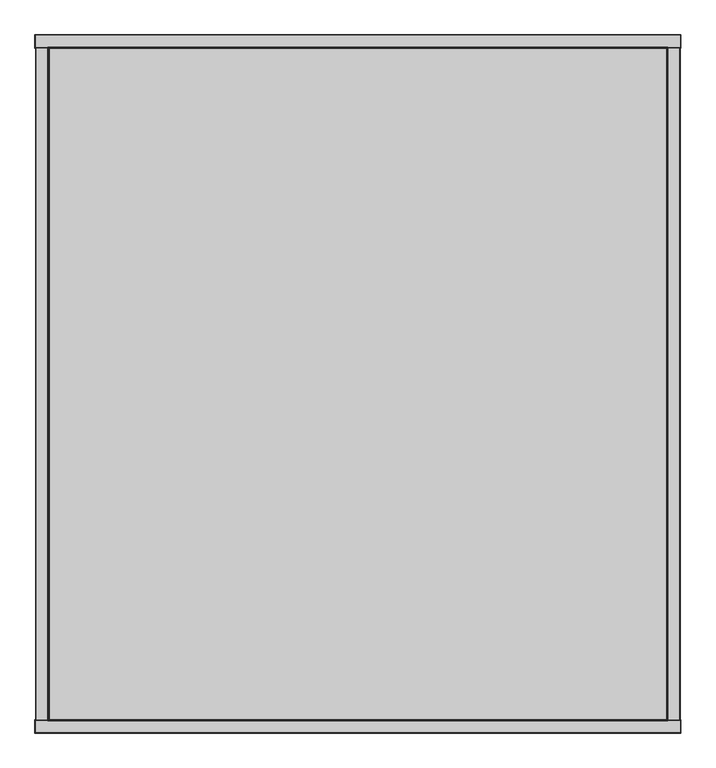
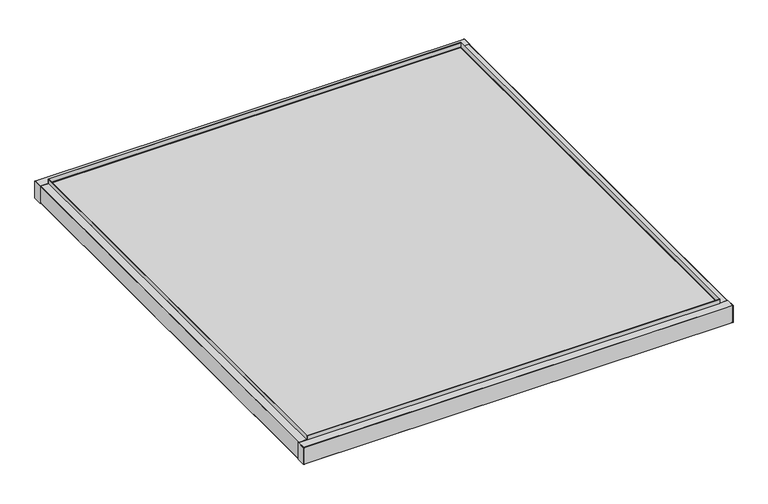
"""IFC4 building model written with IfcOpenShell, lengths in millimetres: proxy geometry, Specialy Equipment_Blindspace_Standard-Pockets-for-Roller-Blinds : 2400 mm x 2600 mm with 100 x 100 mm Box."""

from ifc_helpers import new_model, si_unit, point, frame, frame_2d, origin, place, context, project, spatial, polyline, circle_curve, trimmed, segment, composite_curve, outline, extrude, source, transform, mapped, element, save


def specialty_equipment_c5b3c8d2(model_context):
    return source(origin(), model_context, "Body", "SweptSolid", [
        extrude(outline(polyline([(1154.2337728, -1250.0), (1152.7519052, -1250.0), (1152.7519052, 1250.0), (1154.2337728, 1250.0), (1154.2337728, -1250.0)])), frame((0.0, 0.0, -150.0211688), z_axis=(0.0, 0.0, 1.0), x_axis=(1.0, 0.0, 0.0)), (0.0, 0.0, 1.0), 25.0211686),
        extrude(outline(polyline([(-1152.7519052, -1250.0), (-1154.2337728, -1250.0), (-1154.2337728, 1250.0), (-1152.7519052, 1250.0), (-1152.7519052, -1250.0)])), frame((0.0, 0.0, -25.0), z_axis=(0.0, 0.0, 1.0), x_axis=(1.0, 0.0, 0.0)), (0.0, 0.0, 1.0), 25.0211686),
        extrude(outline(polyline([(-1152.7519052, -1250.0), (-1154.2337728, -1250.0), (-1154.2337728, 1250.0), (-1152.7519052, 1250.0), (-1152.7519052, -1250.0)])), frame((0.0, 0.0, -150.0211688), z_axis=(0.0, 0.0, 1.0), x_axis=(1.0, 0.0, 0.0)), (0.0, 0.0, 1.0), 25.0211686),
        extrude(outline(polyline([(1154.2337728, -1250.0), (1152.7519052, -1250.0), (1152.7519052, 1250.0), (1154.2337728, 1250.0), (1154.2337728, -1250.0)])), frame((0.0, 0.0, -25.0), z_axis=(0.0, 0.0, 1.0), x_axis=(1.0, 0.0, 0.0)), (0.0, 0.0, 1.0), 25.0211686),
        extrude(outline(composite_curve([segment(polyline([(-125.0, 1152.4570582), (-125.0, 1199.25)]), True, "CONTINUOUS"), segment(trimmed(circle_curve(frame_2d((-124.25, 1199.25)), 0.75), [point((-125.0, 1199.25))], [point((-124.25, 1200.0))], False, "CARTESIAN"), True, "CONTINUOUS"), segment(polyline([(-124.25, 1200.0), (-25.75, 1200.0)]), True, "CONTINUOUS"), segment(trimmed(circle_curve(frame_2d((-25.75, 1199.25)), 0.75), [point((-25.75, 1200.0))], [point((-25.0, 1199.25))], False, "CARTESIAN"), True, "CONTINUOUS"), segment(polyline([(-25.0, 1199.25), (-25.0, 1152.4570582), (-27.5, 1150.0), (-27.5, 1172.9912851), (-32.7357774, 1172.9912851), (-32.7357774, 1180.0039757), (-27.5, 1180.0039757), (-27.5, 1188.0030209), (-32.7357774, 1188.0030209), (-32.7357774, 1194.991), (-27.5, 1194.991), (-27.5, 1197.5), (-122.5, 1197.5), (-122.5, 1194.991), (-117.2642226, 1194.991), (-117.2642226, 1188.0030209), (-122.5, 1188.0030209), (-122.5, 1180.0039757), (-117.2642226, 1180.0039757), (-117.2642226, 1172.9912851), (-122.5, 1172.9912851), (-122.5, 1152.4875145), (-59.0, 1152.4875145), (-59.0, 1157.4875145), (-56.5, 1157.4875145), (-56.5, 1150.0), (-122.5, 1150.0), (-125.0, 1152.4570582)]), True, "CONTINUOUS")], self_intersect=False)), frame((0.0, -1250.0, 0.0), z_axis=(0.0, 1.0, 0.0), x_axis=(0.0, 0.0, 1.0)), (0.0, 0.0, 1.0), 2500.0),
        extrude(outline(polyline([(-1154.2, -1254.2337728), (-1154.2, -1252.7519052), (1154.2, -1252.7519052), (1154.2, -1254.2337728), (-1154.2, -1254.2337728)])), frame((0.0, 0.0, -25.0), z_axis=(0.0, 0.0, 1.0), x_axis=(1.0, 0.0, 0.0)), (0.0, 0.0, 1.0), 25.0211686),
        extrude(outline(polyline([(-1154.2, -1254.2337728), (-1154.2, -1252.7519052), (1154.2, -1252.7519052), (1154.2, -1254.2337728), (-1154.2, -1254.2337728)])), frame((0.0, 0.0, -150.0211687), z_axis=(0.0, 0.0, 1.0), x_axis=(1.0, 0.0, 0.0)), (0.0, 0.0, 1.0), 25.0211686),
        extrude(outline(composite_curve([segment(polyline([(-1252.4570582, -125.0), (-1299.25, -125.0)]), True, "CONTINUOUS"), segment(trimmed(circle_curve(frame_2d((-1299.25, -124.25)), 0.75), [point((-1299.25, -125.0))], [point((-1300.0, -124.25))], False, "CARTESIAN"), True, "CONTINUOUS"), segment(polyline([(-1300.0, -124.25), (-1300.0, -25.75)]), True, "CONTINUOUS"), segment(trimmed(circle_curve(frame_2d((-1299.25, -25.75)), 0.75), [point((-1300.0, -25.75))], [point((-1299.25, -25.0))], False, "CARTESIAN"), True, "CONTINUOUS"), segment(polyline([(-1299.25, -25.0), (-1252.4570582, -25.0), (-1250.0, -27.5), (-1272.9912851, -27.5), (-1272.9912851, -32.7357774), (-1280.0039757, -32.7357774), (-1280.0039757, -27.5), (-1288.0030209, -27.5), (-1288.0030209, -32.7357774), (-1294.991, -32.7357774), (-1294.991, -27.5), (-1297.5, -27.5), (-1297.5, -122.5), (-1294.991, -122.5), (-1294.991, -117.2642226), (-1288.0030209, -117.2642226), (-1288.0030209, -122.5), (-1280.0039757, -122.5), (-1280.0039757, -117.2642226), (-1272.9912851, -117.2642226), (-1272.9912851, -122.5), (-1252.4875145, -122.5), (-1252.4875145, -59.0), (-1257.4875145, -59.0), (-1257.4875145, -56.5), (-1250.0, -56.5), (-1250.0, -122.5), (-1252.4570582, -125.0)]), True, "CONTINUOUS")], self_intersect=False)), frame((-1200.0, 0.0, 0.0), z_axis=(1.0, 0.0, 0.0), x_axis=(0.0, 1.0, 0.0)), (0.0, 0.0, 1.0), 2400.0),
        extrude(outline(composite_curve([segment(polyline([(-125.0, -1152.4570582), (-122.5, -1150.0), (-56.5, -1150.0), (-56.5, -1157.4875145), (-59.0, -1157.4875145), (-59.0, -1152.4875145), (-122.5, -1152.4875145), (-122.5, -1172.9912851), (-117.2642226, -1172.9912851), (-117.2642226, -1180.0039757), (-122.5, -1180.0039757), (-122.5, -1188.0030209), (-117.2642226, -1188.0030209), (-117.2642226, -1194.991), (-122.5, -1194.991), (-122.5, -1197.5), (-27.5, -1197.5), (-27.5, -1194.991), (-32.7357774, -1194.991), (-32.7357774, -1188.0030209), (-27.5, -1188.0030209), (-27.5, -1180.0039757), (-32.7357774, -1180.0039757), (-32.7357774, -1172.9912851), (-27.5, -1172.9912851), (-27.5, -1150.0), (-25.0, -1152.4570582), (-25.0, -1199.25)]), True, "CONTINUOUS"), segment(trimmed(circle_curve(frame_2d((-25.75, -1199.25)), 0.75), [point((-25.0, -1199.25))], [point((-25.75, -1200.0))], False, "CARTESIAN"), True, "CONTINUOUS"), segment(polyline([(-25.75, -1200.0), (-124.25, -1200.0)]), True, "CONTINUOUS"), segment(trimmed(circle_curve(frame_2d((-124.25, -1199.25)), 0.75), [point((-124.25, -1200.0))], [point((-125.0, -1199.25))], False, "CARTESIAN"), True, "CONTINUOUS"), segment(polyline([(-125.0, -1199.25), (-125.0, -1152.4570582)]), True, "CONTINUOUS")], self_intersect=False)), frame((0.0, -1250.0, 0.0), z_axis=(0.0, 1.0, 0.0), x_axis=(0.0, 0.0, 1.0)), (0.0, 0.0, 1.0), 2500.0),
        extrude(outline(polyline([(-1154.2337728, 1252.7519052), (-1154.2337728, 1254.2337728), (1154.2337728, 1254.2337728), (1154.2337728, 1252.7519052), (-1154.2337728, 1252.7519052)])), frame((0.0, 0.0, -25.0), z_axis=(0.0, 0.0, 1.0), x_axis=(1.0, 0.0, 0.0)), (0.0, 0.0, 1.0), 25.0211686),
        extrude(outline(polyline([(-1154.2337728, 1252.7519052), (-1154.2337728, 1254.2337728), (1154.2337728, 1254.2337728), (1154.2337728, 1252.7519052), (-1154.2337728, 1252.7519052)])), frame((0.0, 0.0, -150.0211688), z_axis=(0.0, 0.0, 1.0), x_axis=(1.0, 0.0, 0.0)), (0.0, 0.0, 1.0), 25.0211686),
        extrude(outline(composite_curve([segment(polyline([(1252.4570582, -125.0), (1250.0, -122.5), (1250.0, -56.5), (1257.4875145, -56.5), (1257.4875145, -59.0), (1252.4875145, -59.0), (1252.4875145, -122.5), (1272.9912851, -122.5), (1272.9912851, -117.2642226), (1280.0039757, -117.2642226), (1280.0039757, -122.5), (1288.0030209, -122.5), (1288.0030209, -117.2642226), (1294.991, -117.2642226), (1294.991, -122.5), (1297.5, -122.5), (1297.5, -27.5), (1294.991, -27.5), (1294.991, -32.7357774), (1288.0030209, -32.7357774), (1288.0030209, -27.5), (1280.0039757, -27.5), (1280.0039757, -32.7357774), (1272.9912851, -32.7357774), (1272.9912851, -27.5), (1250.0, -27.5), (1252.4570582, -25.0), (1299.25, -25.0)]), True, "CONTINUOUS"), segment(trimmed(circle_curve(frame_2d((1299.25, -25.75)), 0.75), [point((1299.25, -25.0))], [point((1300.0, -25.75))], False, "CARTESIAN"), True, "CONTINUOUS"), segment(polyline([(1300.0, -25.75), (1300.0, -124.25)]), True, "CONTINUOUS"), segment(trimmed(circle_curve(frame_2d((1299.25, -124.25)), 0.75), [point((1300.0, -124.25))], [point((1299.25, -125.0))], False, "CARTESIAN"), True, "CONTINUOUS"), segment(polyline([(1299.25, -125.0), (1252.4570582, -125.0)]), True, "CONTINUOUS")], self_intersect=False)), frame((-1200.0, 0.0, 0.0), z_axis=(1.0, 0.0, 0.0), x_axis=(0.0, 1.0, 0.0)), (0.0, 0.0, 1.0), 2400.0),
        extrude(outline(polyline([(1180.0, 1280.0), (1180.0, -1280.0), (-1180.0, -1280.0), (-1180.0, 1280.0), (1180.0, 1280.0)])), frame((0.0, 0.0, -46.9999999), z_axis=(0.0, 0.0, 1.0), x_axis=(1.0, 0.0, 0.0)), (0.0, 0.0, 1.0), 5.0),
        extrude(outline(polyline([(1202.5, -1300.0), (1200.0, -1300.0), (1200.0, -1250.0), (1202.5, -1250.0), (1202.5, -1300.0)])), frame((0.0, 0.0, -125.0), z_axis=(0.0, 0.0, 1.0), x_axis=(1.0, 0.0, 0.0)), (0.0, 0.0, 1.0), 100.0),
        extrude(outline(polyline([(1202.5, 1300.0), (1202.5, 1250.0), (1200.0, 1250.0), (1200.0, 1300.0), (1202.5, 1300.0)])), frame((0.0, 0.0, -125.0), z_axis=(0.0, 0.0, 1.0), x_axis=(1.0, 0.0, 0.0)), (0.0, 0.0, 1.0), 100.0),
        extrude(outline(polyline([(-1202.5, -1300.0), (-1202.5, -1250.0), (-1200.0, -1250.0), (-1200.0, -1300.0), (-1202.5, -1300.0)])), frame((0.0, 0.0, -125.0), z_axis=(0.0, 0.0, 1.0), x_axis=(1.0, 0.0, 0.0)), (0.0, 0.0, 1.0), 100.0),
        extrude(outline(polyline([(-1202.5, 1300.0), (-1200.0, 1300.0), (-1200.0, 1250.0), (-1202.5, 1250.0), (-1202.5, 1300.0)])), frame((0.0, 0.0, -125.0), z_axis=(0.0, 0.0, 1.0), x_axis=(1.0, 0.0, 0.0)), (0.0, 0.0, 1.0), 100.0),
    ])


if __name__ == "__main__":
    model = new_model("IFC4")
    model_context = context("Model", 3, world=origin())
    ifc_project = project(units=[si_unit("LENGTHUNIT", "METRE", prefix="MILLI")], contexts=[model_context])
    site = spatial("IfcSite", under=ifc_project)
    building = spatial("IfcBuilding", under=site)
    placement = place(None, origin())
    specialty_equipment_shape = specialty_equipment_c5b3c8d2(model_context)
    element("IfcBuildingElementProxy", 1, Name="Specialy Equipment_Blindspace_Standard-Pockets-for-Roller-Blinds : 2400 mm x 2600 mm with 100 x 100 mm Box", ObjectType="Specialy Equipment_Blindspace_Standard-Pockets-for-Roller-Blinds : 2400 mm x 2600 mm with 100 x 100 mm Box", at=placement, inside=building, context=model_context, shape_type="MappedRepresentation", body=[
        mapped(specialty_equipment_shape, transform((0.0, 0.0, 0.0), x_axis=(1.0, 0.0, 0.0), y_axis=(0.0, 1.0, 0.0), z_axis=(0.0, 0.0, 1.0))),
    ])
    save(model, "model.ifc")
